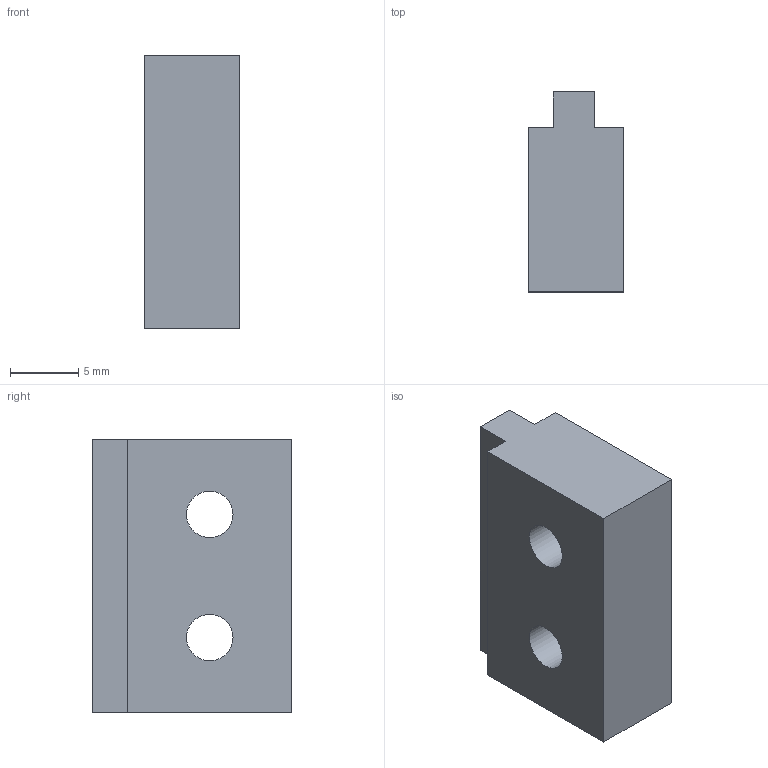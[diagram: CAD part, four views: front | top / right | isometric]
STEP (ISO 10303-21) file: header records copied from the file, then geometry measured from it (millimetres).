
FILE_DESCRIPTION(('FreeCAD Model'),'2;1');
FILE_NAME('Open CASCADE Shape Model','2026-09-06T15:19:34',('FreeCAD'),( 'FreeCAD'),'Open CASCADE STEP processor 7.8','FreeCAD','Unknown');
FILE_SCHEMA(('AUTOMOTIVE_DESIGN { 1 0 10303 214 1 1 1 1 }'));
Length unit declared in the file: millimetre
Products named in the file (1): Open CASCADE STEP translator 7.8 4
Bounding box: 7 x 14.6 x 20 mm (x, y, z)
Volume: 1609.8 mm3; surface area: 1208 mm2
Topology: 1 solids, 1 shells, 26 faces, 66 edges, 44 vertices
Faces by surface type: plane 24, cylinder 2
Full cylindrical faces by diameter (mm): 3.4 x2
Entity records: 792 total; most frequent: CARTESIAN_POINT 137, ORIENTED_EDGE 132, DIRECTION 124, EDGE_CURVE 66, LINE 62, VECTOR 62, VERTEX_POINT 44, FACE_BOUND 32
